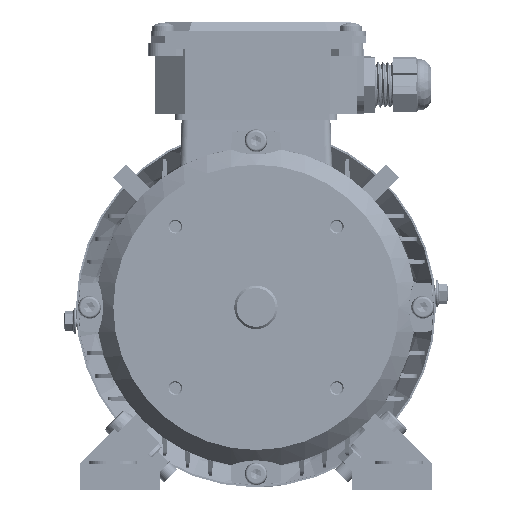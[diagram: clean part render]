
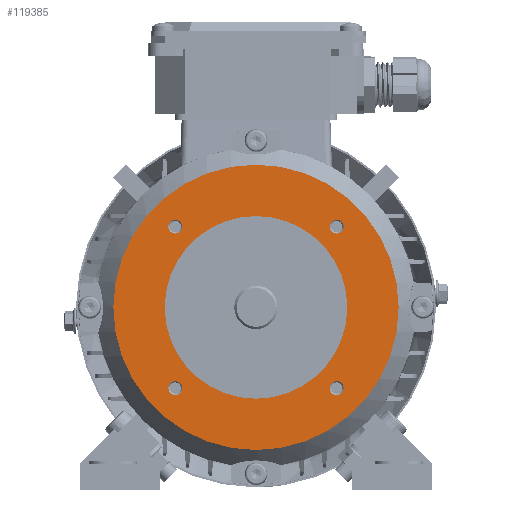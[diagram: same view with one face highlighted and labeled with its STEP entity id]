
A CAD part, front view. The second image highlights one B-rep face of the part: STEP entity #119385.
In plain terms, the highlighted planar face has unit normal (0, -1, 0).
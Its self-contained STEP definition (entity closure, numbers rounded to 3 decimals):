
#3280 = EDGE_CURVE ( 'NONE', #126719, #11919, #133235, .T. ) ;
#6416 = EDGE_CURVE ( 'NONE', #64323, #20761, #89758, .T. ) ;
#6484 = CARTESIAN_POINT ( 'NONE',  ( 35.355, 3., -38.38 ) ) ;
#6601 = FACE_BOUND ( 'NONE', #10723, .T. ) ;
#6931 = VERTEX_POINT ( 'NONE', #134590 ) ;
#7678 = AXIS2_PLACEMENT_3D ( 'NONE', #40192, #119645, #51609 ) ;
#9259 = CIRCLE ( 'NONE', #96568, 3.025 ) ;
#10195 = FACE_BOUND ( 'NONE', #131593, .T. ) ;
#10723 = EDGE_LOOP ( 'NONE', ( #93681, #56831 ) ) ;
#10964 = CARTESIAN_POINT ( 'NONE',  ( 35.355, 3., 38.38 ) ) ;
#11919 = VERTEX_POINT ( 'NONE', #41544 ) ;
#12479 = VERTEX_POINT ( 'NONE', #110401 ) ;
#13914 = EDGE_CURVE ( 'NONE', #6931, #67344, #39001, .T. ) ;
#15172 = ORIENTED_EDGE ( 'NONE', *, *, #45186, .F. ) ;
#15785 = EDGE_CURVE ( 'NONE', #20761, #64323, #109619, .T. ) ;
#17081 = AXIS2_PLACEMENT_3D ( 'NONE', #58479, #137939, #69924 ) ;
#19018 = ORIENTED_EDGE ( 'NONE', *, *, #15785, .F. ) ;
#20269 = VERTEX_POINT ( 'NONE', #6484 ) ;
#20761 = VERTEX_POINT ( 'NONE', #105198 ) ;
#22334 = EDGE_CURVE ( 'NONE', #11919, #126719, #120813, .T. ) ;
#22651 = CARTESIAN_POINT ( 'NONE',  ( -35.355, 3., 38.38 ) ) ;
#23671 = CIRCLE ( 'NONE', #63100, 3.025 ) ;
#24786 = ORIENTED_EDGE ( 'NONE', *, *, #73545, .F. ) ;
#24986 = CARTESIAN_POINT ( 'NONE',  ( 35.355, 3., 35.355 ) ) ;
#25094 = AXIS2_PLACEMENT_3D ( 'NONE', #124337, #56248, #135749 ) ;
#26295 = EDGE_LOOP ( 'NONE', ( #70805, #127398 ) ) ;
#26888 = CARTESIAN_POINT ( 'NONE',  ( 0., 3., 0. ) ) ;
#27117 = CARTESIAN_POINT ( 'NONE',  ( 0., 3., -62.5 ) ) ;
#27138 = DIRECTION ( 'NONE',  ( 0., -1., 0. ) ) ;
#28606 = EDGE_LOOP ( 'NONE', ( #46665, #19018 ) ) ;
#29481 = CARTESIAN_POINT ( 'NONE',  ( -35.355, 3., -38.38 ) ) ;
#30568 = AXIS2_PLACEMENT_3D ( 'NONE', #44484, #123969, #55865 ) ;
#35760 = EDGE_CURVE ( 'NONE', #50809, #12479, #9259, .T. ) ;
#36399 = DIRECTION ( 'NONE',  ( 0., 0., -1. ) ) ;
#38319 = DIRECTION ( 'NONE',  ( 0., 0., -1. ) ) ;
#38602 = ORIENTED_EDGE ( 'NONE', *, *, #3280, .F. ) ;
#39001 = CIRCLE ( 'NONE', #7678, 62.5 ) ;
#40192 = CARTESIAN_POINT ( 'NONE',  ( 0., 3., 0. ) ) ;
#40934 = ORIENTED_EDGE ( 'NONE', *, *, #63644, .F. ) ;
#41544 = CARTESIAN_POINT ( 'NONE',  ( 0., 3., 40. ) ) ;
#42258 = AXIS2_PLACEMENT_3D ( 'NONE', #24986, #104439, #36399 ) ;
#44015 = CARTESIAN_POINT ( 'NONE',  ( 35.355, 3., -32.33 ) ) ;
#44484 = CARTESIAN_POINT ( 'NONE',  ( 0., 3., 0. ) ) ;
#44704 = AXIS2_PLACEMENT_3D ( 'NONE', #26888, #106345, #38319 ) ;
#45186 = EDGE_CURVE ( 'NONE', #108685, #47116, #97986, .T. ) ;
#46665 = ORIENTED_EDGE ( 'NONE', *, *, #6416, .F. ) ;
#46716 = ORIENTED_EDGE ( 'NONE', *, *, #64313, .F. ) ;
#47116 = VERTEX_POINT ( 'NONE', #99264 ) ;
#48633 = AXIS2_PLACEMENT_3D ( 'NONE', #95147, #27138, #106623 ) ;
#50809 = VERTEX_POINT ( 'NONE', #22651 ) ;
#51609 = DIRECTION ( 'NONE',  ( 0., 0., -1. ) ) ;
#52336 = CARTESIAN_POINT ( 'NONE',  ( 35.355, 3., -35.355 ) ) ;
#52395 = DIRECTION ( 'NONE',  ( 0., -1., 0. ) ) ;
#53267 = DIRECTION ( 'NONE',  ( 0., -1., 0. ) ) ;
#54045 = CARTESIAN_POINT ( 'NONE',  ( -35.355, 3., 35.355 ) ) ;
#55865 = DIRECTION ( 'NONE',  ( 0., 0., -1. ) ) ;
#56248 = DIRECTION ( 'NONE',  ( 0., -1., 0. ) ) ;
#56831 = ORIENTED_EDGE ( 'NONE', *, *, #35760, .F. ) ;
#58479 = CARTESIAN_POINT ( 'NONE',  ( -35.355, 3., 35.355 ) ) ;
#63100 = AXIS2_PLACEMENT_3D ( 'NONE', #134125, #66098, #96054 ) ;
#63644 = EDGE_CURVE ( 'NONE', #47116, #108685, #23671, .T. ) ;
#63782 = DIRECTION ( 'NONE',  ( 0., 0., -1. ) ) ;
#64313 = EDGE_CURVE ( 'NONE', #20269, #78671, #99921, .T. ) ;
#64323 = VERTEX_POINT ( 'NONE', #29481 ) ;
#64371 = CARTESIAN_POINT ( 'NONE',  ( -35.355, 3., -35.355 ) ) ;
#65505 = DIRECTION ( 'NONE',  ( 0., 0., -1. ) ) ;
#66098 = DIRECTION ( 'NONE',  ( 0., -1., 0. ) ) ;
#67123 = FACE_BOUND ( 'NONE', #124562, .T. ) ;
#67344 = VERTEX_POINT ( 'NONE', #27117 ) ;
#69924 = DIRECTION ( 'NONE',  ( 0., 0., -1. ) ) ;
#70638 = FACE_BOUND ( 'NONE', #28606, .T. ) ;
#70805 = ORIENTED_EDGE ( 'NONE', *, *, #13914, .T. ) ;
#71822 = EDGE_CURVE ( 'NONE', #12479, #50809, #126884, .T. ) ;
#73545 = EDGE_CURVE ( 'NONE', #78671, #20269, #100973, .T. ) ;
#75583 = ORIENTED_EDGE ( 'NONE', *, *, #22334, .F. ) ;
#75781 = DIRECTION ( 'NONE',  ( 0., 0., -1. ) ) ;
#78671 = VERTEX_POINT ( 'NONE', #44015 ) ;
#84660 = AXIS2_PLACEMENT_3D ( 'NONE', #109879, #53267, #132733 ) ;
#84885 = AXIS2_PLACEMENT_3D ( 'NONE', #64371, #143835, #75781 ) ;
#89758 = CIRCLE ( 'NONE', #25094, 3.025 ) ;
#93641 = FACE_OUTER_BOUND ( 'NONE', #26295, .T. ) ;
#93681 = ORIENTED_EDGE ( 'NONE', *, *, #71822, .F. ) ;
#95147 = CARTESIAN_POINT ( 'NONE',  ( 35.355, 3., -35.355 ) ) ;
#96054 = DIRECTION ( 'NONE',  ( 0., 0., -1. ) ) ;
#96568 = AXIS2_PLACEMENT_3D ( 'NONE', #54045, #133543, #65505 ) ;
#97986 = CIRCLE ( 'NONE', #42258, 3.025 ) ;
#99264 = CARTESIAN_POINT ( 'NONE',  ( 35.355, 3., 32.33 ) ) ;
#99921 = CIRCLE ( 'NONE', #133627, 3.025 ) ;
#100973 = CIRCLE ( 'NONE', #48633, 3.025 ) ;
#104439 = DIRECTION ( 'NONE',  ( 0., -1., 0. ) ) ;
#105198 = CARTESIAN_POINT ( 'NONE',  ( -35.355, 3., -32.33 ) ) ;
#106345 = DIRECTION ( 'NONE',  ( 0., -1., 0. ) ) ;
#106623 = DIRECTION ( 'NONE',  ( 0., 0., -1. ) ) ;
#108685 = VERTEX_POINT ( 'NONE', #10964 ) ;
#109619 = CIRCLE ( 'NONE', #84885, 3.025 ) ;
#109879 = CARTESIAN_POINT ( 'NONE',  ( 40., 3., 0. ) ) ;
#110401 = CARTESIAN_POINT ( 'NONE',  ( -35.355, 3., 32.33 ) ) ;
#113620 = CIRCLE ( 'NONE', #44704, 62.5 ) ;
#115173 = CARTESIAN_POINT ( 'NONE',  ( 0., 3., -40. ) ) ;
#118066 = EDGE_LOOP ( 'NONE', ( #46716, #24786 ) ) ;
#119385 = ADVANCED_FACE ( 'NONE', ( #6601, #10195, #70638, #123976, #93641, #67123 ), #121320, .T. ) ;
#119645 = DIRECTION ( 'NONE',  ( 0., -1., 0. ) ) ;
#120456 = CARTESIAN_POINT ( 'NONE',  ( 0., 3., 0. ) ) ;
#120813 = CIRCLE ( 'NONE', #123728, 40. ) ;
#121320 = PLANE ( 'NONE',  #84660 ) ;
#123728 = AXIS2_PLACEMENT_3D ( 'NONE', #120456, #52395, #131884 ) ;
#123969 = DIRECTION ( 'NONE',  ( 0., -1., 0. ) ) ;
#123976 = FACE_BOUND ( 'NONE', #118066, .T. ) ;
#124337 = CARTESIAN_POINT ( 'NONE',  ( -35.355, 3., -35.355 ) ) ;
#124562 = EDGE_LOOP ( 'NONE', ( #38602, #75583 ) ) ;
#126719 = VERTEX_POINT ( 'NONE', #115173 ) ;
#126884 = CIRCLE ( 'NONE', #17081, 3.025 ) ;
#127398 = ORIENTED_EDGE ( 'NONE', *, *, #136785, .T. ) ;
#131593 = EDGE_LOOP ( 'NONE', ( #40934, #15172 ) ) ;
#131830 = DIRECTION ( 'NONE',  ( 0., -1., 0. ) ) ;
#131884 = DIRECTION ( 'NONE',  ( 0., 0., -1. ) ) ;
#132733 = DIRECTION ( 'NONE',  ( 0., 0., -1. ) ) ;
#133235 = CIRCLE ( 'NONE', #30568, 40. ) ;
#133543 = DIRECTION ( 'NONE',  ( 0., -1., 0. ) ) ;
#133627 = AXIS2_PLACEMENT_3D ( 'NONE', #52336, #131830, #63782 ) ;
#134125 = CARTESIAN_POINT ( 'NONE',  ( 35.355, 3., 35.355 ) ) ;
#134590 = CARTESIAN_POINT ( 'NONE',  ( 0., 3., 62.5 ) ) ;
#135749 = DIRECTION ( 'NONE',  ( 0., 0., -1. ) ) ;
#136785 = EDGE_CURVE ( 'NONE', #67344, #6931, #113620, .T. ) ;
#137939 = DIRECTION ( 'NONE',  ( 0., -1., 0. ) ) ;
#143835 = DIRECTION ( 'NONE',  ( 0., -1., 0. ) ) ;
